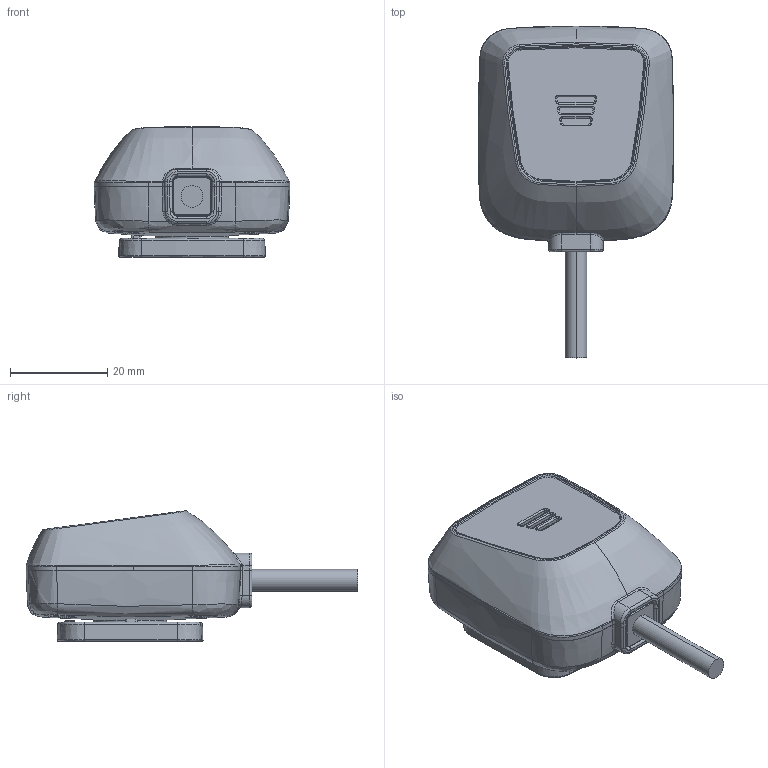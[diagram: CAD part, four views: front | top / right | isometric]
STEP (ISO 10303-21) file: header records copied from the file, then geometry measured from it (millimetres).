
FILE_DESCRIPTION (( 'STEP AP203' ), '1' );
FILE_NAME ('3D_TAB2.STEP', '2022-03-25T02:27:25', ( '' ), ( '' ), 'SwSTEP 2.0', 'SolidWorks 2015', '' );
FILE_SCHEMA (( 'CONFIG_CONTROL_DESIGN' ));
Length unit declared in the file: millimetre
Products named in the file (6): 3D_TAB2; SR1; TAB2-奻屳; BASE; 赻馴蹟緲-33903-021-10; BACK
Assembly tree (5 placements, depth 2):
  3D_TAB2
    BACK
    SR1
    赻馴蹟緲-33903-021-10
    TAB2-奻屳
    BASE
Bounding box: 40.2 x 68.21 x 26.8 mm (x, y, z)
Volume: 32331.5 mm3; surface area: 13130.4 mm2
Topology: 8 solids, 8 shells, 750 faces, 1898 edges, 1188 vertices
Faces by surface type: cylinder 293, bspline 235, plane 169, cone 53
Entity records: 41693 total; most frequent: CARTESIAN_POINT 25273, ORIENTED_EDGE 3794, DIRECTION 2740, EDGE_CURVE 1897, VERTEX_POINT 1188, AXIS2_PLACEMENT_3D 1014, EDGE_LOOP 785, FACE_OUTER_BOUND 750
